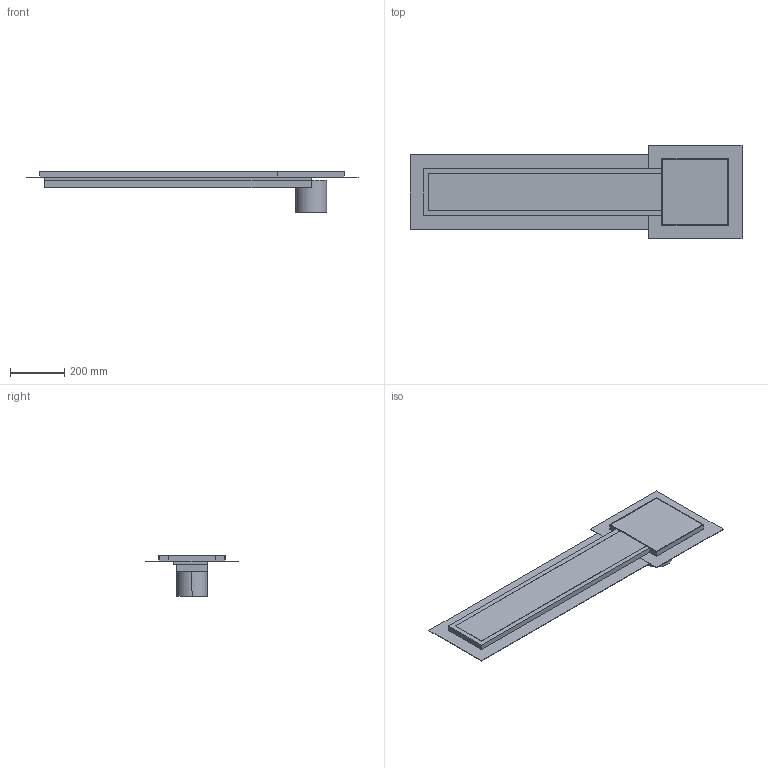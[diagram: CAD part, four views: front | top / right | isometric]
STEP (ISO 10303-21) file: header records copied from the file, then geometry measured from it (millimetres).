
FILE_DESCRIPTION(/* description */ (''),/* implementation_level */ '2;1');
FILE_NAME(/* name */ 'E:\Workspace\resitec\Packs\Kategorie\Entwässerungsrinne\STP\RS770K.18.245Entwässerungsrinne mit Auslaufkasten245mmE-4xKR.s.ipt.stp',/* time_stamp */ '2020-10-04T20:56:18+02:00',/* author */ ('ndmes'),/* organization */ (''),/* preprocessor_version */ 'ST-DEVELOPER v18.1',/* originating_system */ 'Autodesk Inventor 2021',/* authorisation */ '');
FILE_SCHEMA (('AUTOMOTIVE_DESIGN { 1 0 10303 214 3 1 1 }'));
Length unit declared in the file: millimetre
Products named in the file (1): RS770K.18.245Entwässerungsrinne mit Auslaufkasten245mmE-4xKR.s
Bounding box: 1222.5 x 345 x 150 mm (x, y, z)
Volume: 10583832.2 mm3; surface area: 1822276.3 mm2
Topology: 9 solids, 9 shells, 65 faces, 141 edges, 94 vertices
Faces by surface type: plane 63, cylinder 2
Entity records: 1780 total; most frequent: CARTESIAN_POINT 301, ORIENTED_EDGE 282, DIRECTION 277, EDGE_CURVE 141, LINE 137, VECTOR 137, VERTEX_POINT 94, AXIS2_PLACEMENT_3D 70
